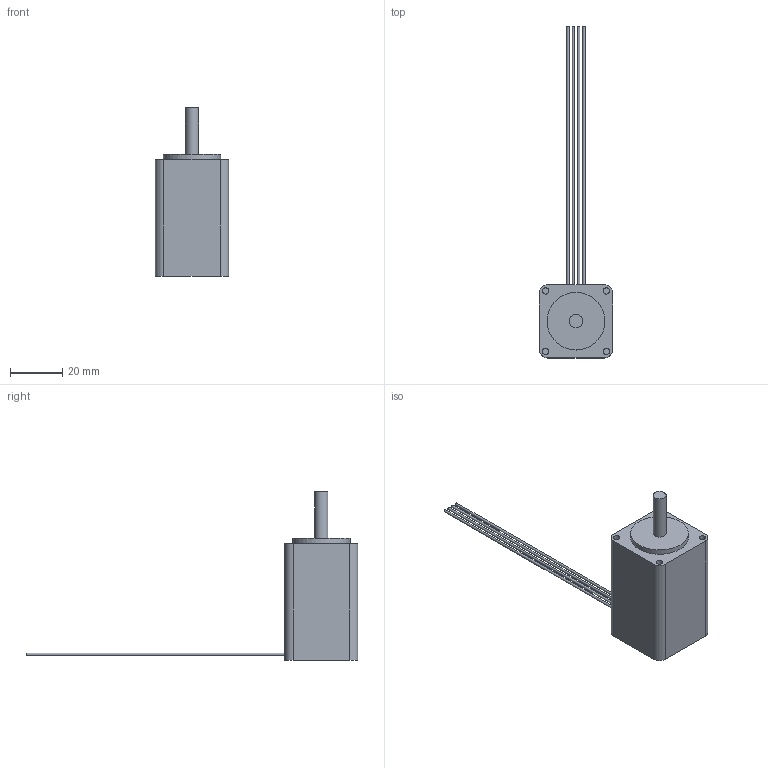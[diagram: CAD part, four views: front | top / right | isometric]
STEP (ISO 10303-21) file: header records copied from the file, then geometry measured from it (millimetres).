
FILE_DESCRIPTION((''),'2;1');
FILE_NAME('C:\Documents and Settings\rbadgerow\Desktop\updated web dwgs\ipt\211\211-18 sngl.stp','2008-10-26T10:22:09',('rbadgerow'),(''),'Autodesk Inventor 2009','Autodesk Inventor 2009','');
FILE_SCHEMA(('AUTOMOTIVE_DESIGN { 1 0 10303 214 1 1 1 1 }'));
Length unit declared in the file: inch
Products named in the file (1): 211-18 sngl
Bounding box: 27.94 x 126.66 x 64.26 mm (x, y, z)
Volume: 34865.4 mm3; surface area: 9251.6 mm2
Topology: 1 solids, 1 shells, 30 faces, 57 edges, 39 vertices
Faces by surface type: plane 16, cylinder 14
Full cylindrical faces by diameter (mm): 0.965 x4, 2.489 x4, 4.999 x1, 21.996 x1
Entity records: 808 total; most frequent: DIRECTION 134, CARTESIAN_POINT 111, ORIENTED_EDGE 88, AXIS2_PLACEMENT_3D 59, EDGE_LOOP 50, EDGE_CURVE 44, VERTEX_POINT 36, FACE_OUTER_BOUND 30
